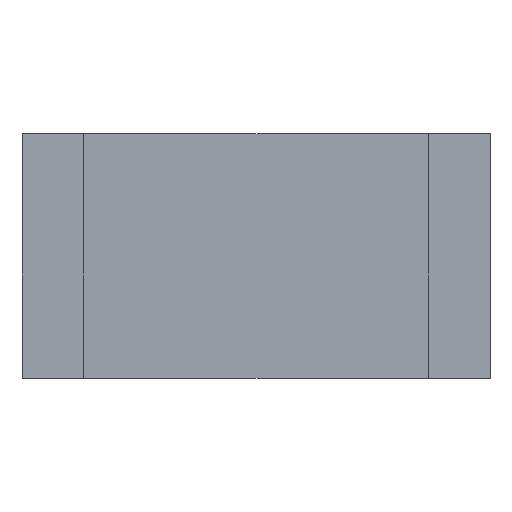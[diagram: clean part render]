
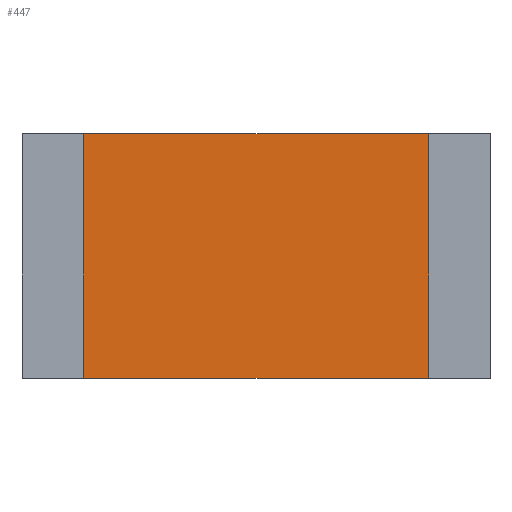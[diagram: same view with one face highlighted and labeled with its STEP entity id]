
A CAD part, top view. The second image highlights one B-rep face of the part: STEP entity #447.
In plain terms, the highlighted planar face has unit normal (0, 0, 1).
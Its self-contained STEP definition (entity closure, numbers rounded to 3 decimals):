
#29=FACE_OUTER_BOUND('',#55,.T.);
#55=EDGE_LOOP('',(#339,#340,#341,#342));
#95=LINE('',#679,#155);
#96=LINE('',#681,#156);
#97=LINE('',#683,#157);
#98=LINE('',#684,#158);
#155=VECTOR('',#559,10.);
#156=VECTOR('',#560,10.);
#157=VECTOR('',#561,10.);
#158=VECTOR('',#562,10.);
#207=VERTEX_POINT('',#677);
#208=VERTEX_POINT('',#678);
#209=VERTEX_POINT('',#680);
#210=VERTEX_POINT('',#682);
#255=EDGE_CURVE('',#207,#208,#95,.T.);
#256=EDGE_CURVE('',#209,#207,#96,.T.);
#257=EDGE_CURVE('',#210,#209,#97,.T.);
#258=EDGE_CURVE('',#208,#210,#98,.T.);
#339=ORIENTED_EDGE('',*,*,#255,.F.);
#340=ORIENTED_EDGE('',*,*,#256,.F.);
#341=ORIENTED_EDGE('',*,*,#257,.F.);
#342=ORIENTED_EDGE('',*,*,#258,.F.);
#421=PLANE('',#495);
#447=ADVANCED_FACE('',(#29),#421,.T.);
#495=AXIS2_PLACEMENT_3D('',#676,#557,#558);
#557=DIRECTION('center_axis',(0.,0.,1.));
#558=DIRECTION('ref_axis',(1.,0.,0.));
#559=DIRECTION('',(1.,0.,0.));
#560=DIRECTION('',(0.,1.,0.));
#561=DIRECTION('',(-1.,0.,0.));
#562=DIRECTION('',(0.,-1.,0.));
#676=CARTESIAN_POINT('Origin',(1.525,-0.001,0.39));
#677=CARTESIAN_POINT('',(0.,1.6,0.39));
#678=CARTESIAN_POINT('',(3.05,1.6,0.39));
#679=CARTESIAN_POINT('',(0.,1.6,0.39));
#680=CARTESIAN_POINT('',(0.,0.,0.39));
#681=CARTESIAN_POINT('',(0.,0.,0.39));
#682=CARTESIAN_POINT('',(3.05,0.,0.39));
#683=CARTESIAN_POINT('',(3.05,0.,0.39));
#684=CARTESIAN_POINT('',(3.05,1.6,0.39));
